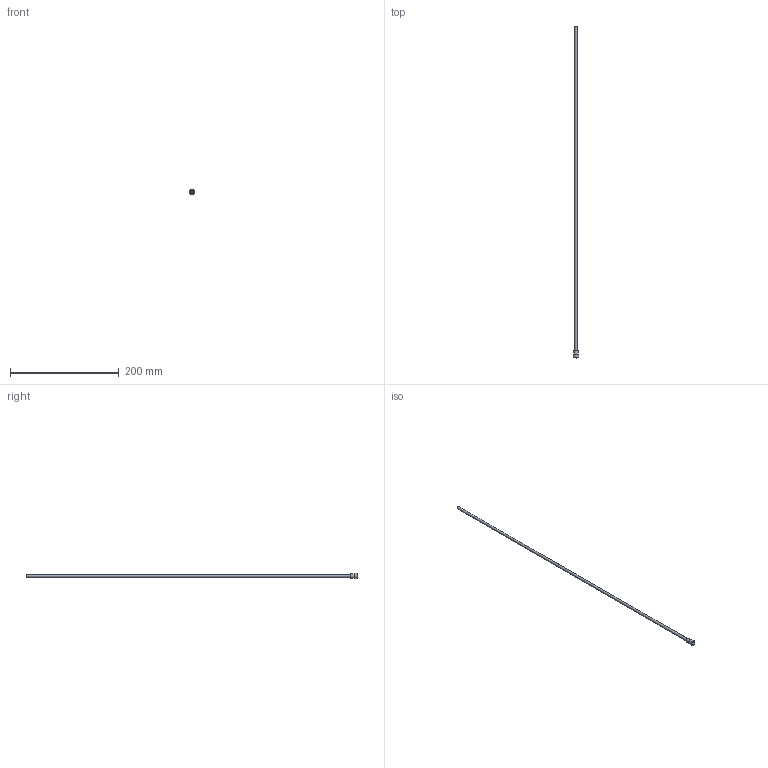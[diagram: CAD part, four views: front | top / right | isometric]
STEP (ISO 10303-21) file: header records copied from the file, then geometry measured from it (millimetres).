
FILE_DESCRIPTION(/* description */ (''),/* implementation_level */ '2;1');
FILE_NAME(/* name */ 'C:/Users/drich/Desktop/JR187T-24 v2.step',/* time_stamp */ '2019-12-30T13:04:24-06:00',/* author */ (''),/* organization */ (''),/* preprocessor_version */ 'ST-DEVELOPER v18',/* originating_system */ 'Autodesk Translation Framework v8.12.0.6',/* authorisation */ '');
FILE_SCHEMA (('AUTOMOTIVE_DESIGN { 1 0 10303 214 3 1 1 }'));
Length unit declared in the file: inch
Products named in the file (1): JR187T-24
Bounding box: 9.4 x 609.6 x 9.4 mm (x, y, z)
Volume: 2551 mm3; surface area: 17486.8 mm2
Topology: 1 solids, 1 shells, 19 faces, 47 edges, 33 vertices
Faces by surface type: plane 11, cylinder 4, torus 3, cone 1
Full cylindrical faces by diameter (mm): 4.242 x1, 4.724 x1, 7.818 x1, 9.398 x1
Entity records: 624 total; most frequent: DIRECTION 111, CARTESIAN_POINT 100, ORIENTED_EDGE 94, EDGE_CURVE 47, AXIS2_PLACEMENT_3D 44, VERTEX_POINT 33, EDGE_LOOP 24, CIRCLE 24
